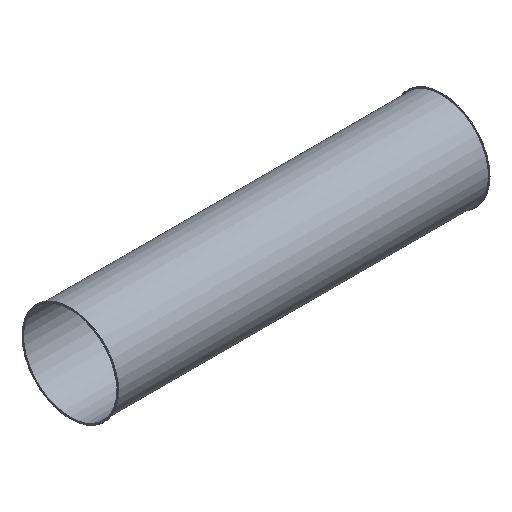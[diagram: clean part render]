
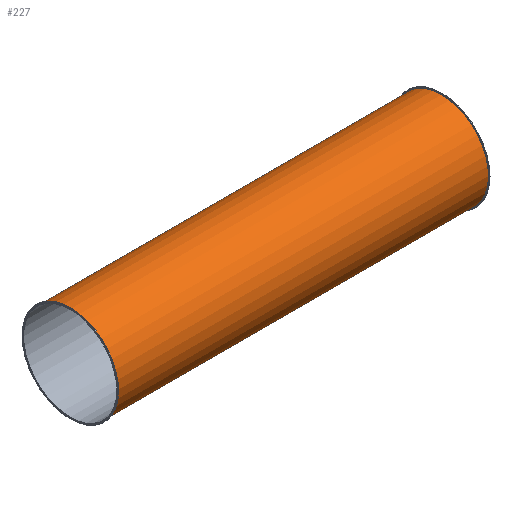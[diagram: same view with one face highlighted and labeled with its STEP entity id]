
A CAD part, isometric view. The second image highlights one B-rep face of the part: STEP entity #227.
In plain terms, the highlighted cylindrical face has radius 251 mm (diameter 502 mm), a full revolution.
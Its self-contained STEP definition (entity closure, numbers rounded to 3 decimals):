
#112=CARTESIAN_POINT('',(-31.741,2.915,0.0));
#113=VERTEX_POINT('',#112);
#114=CARTESIAN_POINT('',(-31.741,253.915,0.0));
#115=DIRECTION('',(-1.0,0.0,0.0));
#116=DIRECTION('',(0.0,-1.0,0.0));
#117=AXIS2_PLACEMENT_3D('',#114,#115,#116);
#118=CIRCLE('',#117,251.0);
#119=EDGE_CURVE('',#113,#113,#118,.T.);
#204=CARTESIAN_POINT('',(1950.259,2.915,0.0));
#205=VERTEX_POINT('',#204);
#206=CARTESIAN_POINT('',(1950.259,253.915,0.0));
#207=DIRECTION('',(-1.0,0.0,0.0));
#208=DIRECTION('',(0.0,-1.0,0.0));
#209=AXIS2_PLACEMENT_3D('',#206,#207,#208);
#210=CIRCLE('',#209,251.);
#211=EDGE_CURVE('',#205,#205,#210,.T.);
#216=CARTESIAN_POINT('',(959.259,253.915,0.0));
#217=DIRECTION('',(-1.0,0.,0.0));
#218=DIRECTION('',(0.0,-1.0,0.0));
#219=AXIS2_PLACEMENT_3D('',#216,#217,#218);
#220=CYLINDRICAL_SURFACE('',#219,251.);
#221=ORIENTED_EDGE('',*,*,#119,.F.);
#222=EDGE_LOOP('',(#221));
#223=FACE_OUTER_BOUND('',#222,.T.);
#224=ORIENTED_EDGE('',*,*,#211,.T.);
#225=EDGE_LOOP('',(#224));
#226=FACE_BOUND('',#225,.T.);
#227=ADVANCED_FACE('',(#223,#226),#220,.T.);
